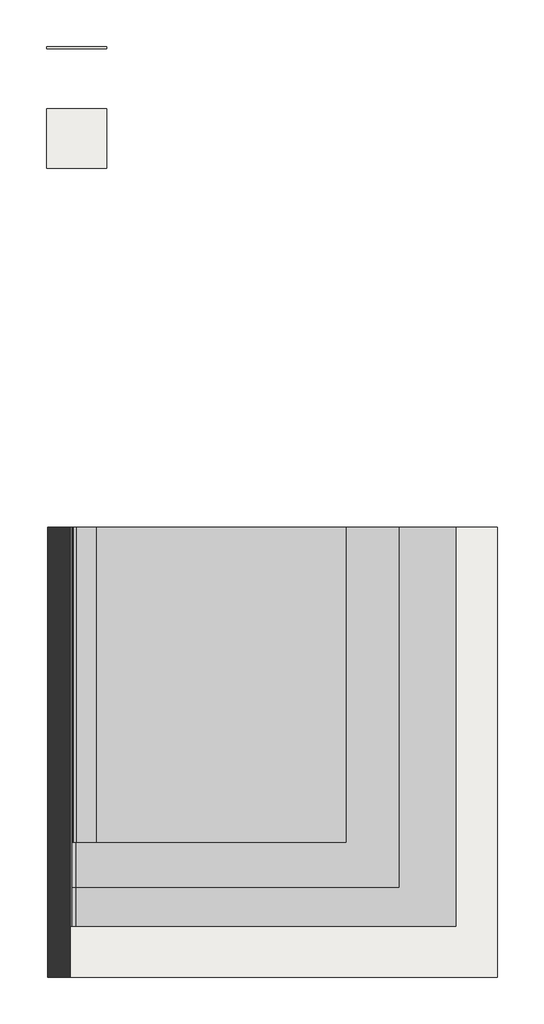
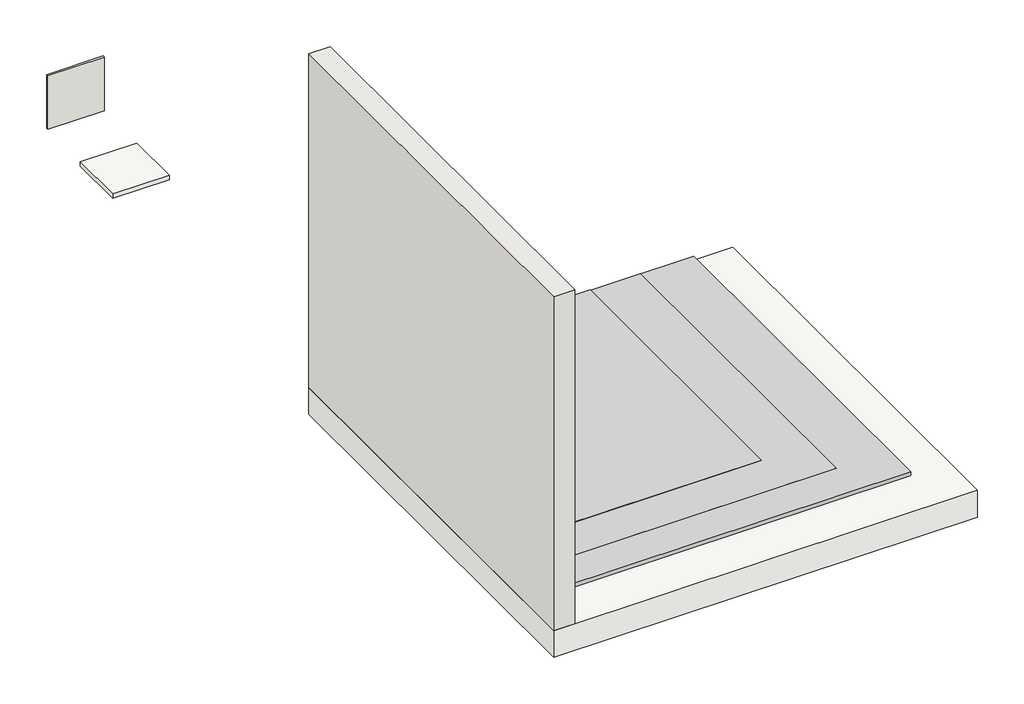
# One storey: 2 slabs, 2 walls, 1 proxy.
"""IFC4 building model written with IfcOpenShell, lengths in millimetres."""

from ifc_helpers import new_model, si_unit, frame, origin, place, context, project, spatial, polyline, outline, extrude, transform, mapped, element, save
from components import generic_models_7a53365d

model = new_model("IFC4")

# Units and contexts
model_context = context("Model", 3, world=origin())
ifc_project = project(units=[si_unit("LENGTHUNIT", "METRE", prefix="MILLI")], contexts=[model_context])

# Site, building, storey
site = spatial("IfcSite", under=ifc_project)
building = spatial("IfcBuilding", under=site)
storey = spatial("IfcBuildingStorey", under=building, Name="ARQ Térreo", Elevation=-2.523798)

# Proxy
placement = place(None, origin())
generic_models_shape = generic_models_7a53365d(model_context)
element("IfcBuildingElementProxy", 1, Name="IMPER:IMPER:433934 : IMPER:IMPER:433934", ObjectType="IMPER:IMPER:433934 : IMPER:IMPER:433934", at=placement, inside=storey, context=model_context, shape_type="MappedRepresentation", body=[
    mapped(generic_models_shape, transform((0.0, 0.0, 0.0), x_axis=(1.0, 0.0, 0.0), y_axis=(0.0, 1.0, 0.0), z_axis=(0.0, 0.0, 1.0))),
])

# Slabs
element("IfcSlab", 2, ObjectType="IMPH_PALP", at=placement, inside=storey, context=model_context, shape_type="SweptSolid", body=[
    extrude(outline(polyline([(-508.4496081, 2936.9349646), (-108.4496081, 2936.9349646), (-108.4496081, 2541.9349646), (-508.4496081, 2541.9349646), (-508.4496081, 2936.9349646)])), frame((0.0, 0.0, -37.523798), z_axis=(0.0, 0.0, 1.0), x_axis=(1.0, 0.0, 0.0)), (0.0, 0.0, 1.0), 35.0),
])
element("IfcSlab", 3, ObjectType="Piso:LAJE CONCRETO", at=placement, inside=storey, context=model_context, shape_type="SweptSolid", body=[
    extrude(outline(polyline([(-501.9704105, 145.8700195), (2498.0295895, 145.8700195), (2498.0295895, -2854.1299805), (-501.9704105, -2854.1299805), (-501.9704105, 145.8700195)])), frame((0.0, 0.0, -202.523798), z_axis=(0.0, 0.0, 1.0), x_axis=(1.0, 0.0, 0.0)), (0.0, 0.0, 1.0), 200.0),
])

# Walls
element("IfcWall", 4, ObjectType="Parede básica:Parede Concreto", at=placement, inside=storey, context=model_context, shape_type="SweptSolid", body=[
    extrude(outline(polyline([(-501.9704105, -2854.1299805), (-501.9704105, 145.8700195), (-351.9704105, 145.8700195), (-351.9704105, -2854.1299805), (-501.9704105, -2854.1299805)])), frame((0.0, 0.0, -2.523798), z_axis=(0.0, 0.0, 1.0), x_axis=(1.0, 0.0, 0.0)), (0.0, 0.0, 1.0), 2500.0),
])
element("IfcWall", 5, ObjectType="IMPV_PALP", at=placement, inside=storey, context=model_context, shape_type="SweptSolid", body=[
    extrude(outline(polyline([(-508.4496081, 3351.9349646), (-108.4496081, 3351.9349646), (-108.4496081, 3336.9349646), (-508.4496081, 3336.9349646), (-508.4496081, 3351.9349646)])), frame((0.0, 0.0, -2.523798), z_axis=(0.0, 0.0, 1.0), x_axis=(1.0, 0.0, 0.0)), (0.0, 0.0, 1.0), 400.0),
])

save(model, "model.ifc")
